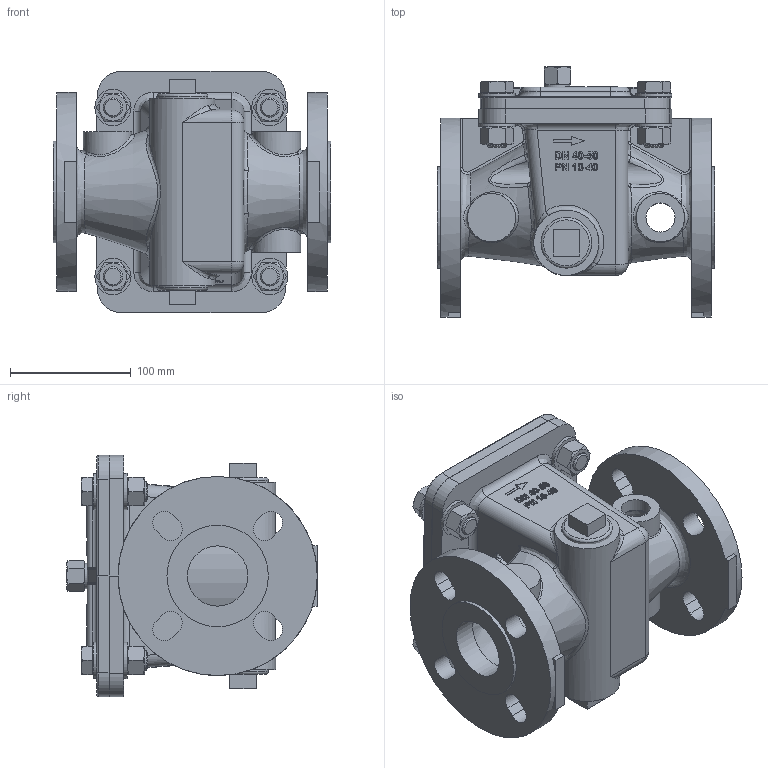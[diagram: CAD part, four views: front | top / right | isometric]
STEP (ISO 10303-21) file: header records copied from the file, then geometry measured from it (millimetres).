
FILE_DESCRIPTION(/* description */ ('DN 40/50 / PN 10-40'),/* implementation_level */ '2;1');
FILE_NAME(/* name */ 'G:\Doc_Liberes\SymbolesCAD\Modeles_3D\FichierSTP\Aqua\Aqua90501\FAB050.stp',/* time_stamp */ '2019-09-03T15:18:23+02:00',/* author */ ('leonardo'),/* organization */ (''),/* preprocessor_version */ 'ST-DEVELOPER v18',/* originating_system */ 'Autodesk Inventor 2020',/* authorisation */ '');
FILE_SCHEMA (('AUTOMOTIVE_DESIGN { 1 0 10303 214 3 1 1 }'));
Products named in the file (15): CFA90501G10504-KCO; 57969-40; 57971; 57576-02; 57576-07; 57507; BGT7001; 57972; torique050; 57973; 57973Prot; 57973Tami; ISO 4017 - M16 x 45; ISO 7089 - 16 - 140 HV; ISO 4032 - M16
Assembly tree (28 placements, depth 3):
  CFA90501G10504-KCO
    57969-40
    57971
    57576-02
      57576-07
      57507
    BGT7001  x2
    57972
    torique050
    57973
      57973Prot
      57973Tami
    ISO 4017 - M16 x 45  x4
    ISO 7089 - 16 - 140 HV  x8
    ISO 4032 - M16  x4
Bounding box: 230 x 207.5 x 200 mm (x, y, z)
Volume: 1977206.4 mm3; surface area: 525403.4 mm2
Topology: 26 solids, 26 shells, 1661 faces, 4293 edges, 2761 vertices
Faces by surface type: plane 885, bspline 363, cylinder 264, torus 79, cone 66, sphere 4
Full cylindrical faces by diameter (mm): 1.6 x1, 2.3 x1, 5.33 x4, 6.5 x1, 6.92 x1, 8 x1, 13.835 x4, 14 x1, 16 x4, 17 x8, 18 x8, 18.63 x1, 20.955 x1, 22.49 x4, 24.12 x2, 30 x8, 32 x2, 38.95 x2, 40 x3, 42 x2, 50 x2, 54 x1, 84 x2, 165 x2
Entity records: 56997 total; most frequent: CARTESIAN_POINT 20687, ORIENTED_EDGE 7964, DIRECTION 6408, EDGE_CURVE 3982, VERTEX_POINT 2572, LINE 2438, VECTOR 2438, AXIS2_PLACEMENT_3D 1985
